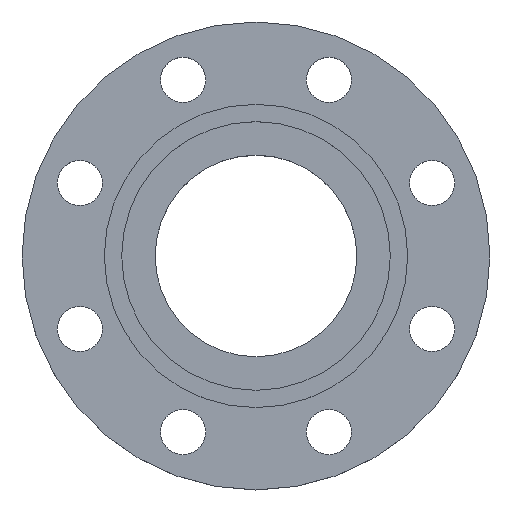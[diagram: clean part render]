
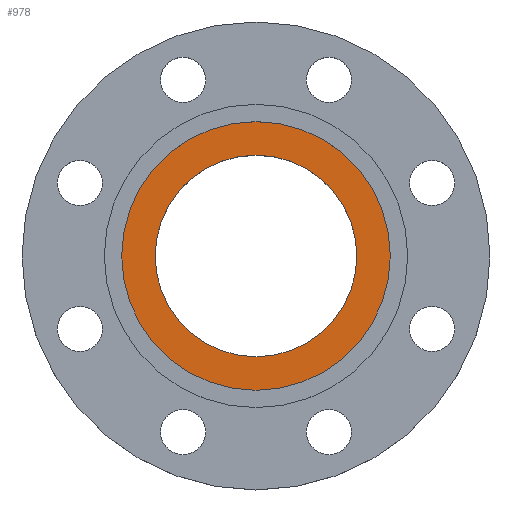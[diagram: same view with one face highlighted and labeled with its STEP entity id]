
A CAD part, top view. The second image highlights one B-rep face of the part: STEP entity #978.
In plain terms, the highlighted planar face has unit normal (0, 0, 1).
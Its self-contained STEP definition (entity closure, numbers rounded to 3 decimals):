
#41 = DIRECTION ( 'NONE',  ( 0., 0., -1. ) ) ;
#56 = AXIS2_PLACEMENT_3D ( 'NONE', #597, #41, #163 ) ;
#109 = CIRCLE ( 'NONE', #111, 77.5 ) ;
#111 = AXIS2_PLACEMENT_3D ( 'NONE', #384, #383, #381 ) ;
#129 = CIRCLE ( 'NONE', #540, 58.17 ) ;
#142 = DIRECTION ( 'NONE',  ( 1., 0., 0. ) ) ;
#143 = DIRECTION ( 'NONE',  ( 0., 0., 1. ) ) ;
#145 = CARTESIAN_POINT ( 'NONE',  ( 77.5, 0., -5. ) ) ;
#146 = PLANE ( 'NONE',  #209 ) ;
#147 = FACE_OUTER_BOUND ( 'NONE', #886, .T. ) ;
#148 = FACE_BOUND ( 'NONE', #893, .T. ) ;
#151 = EDGE_CURVE ( 'NONE', #569, #873, #129, .T. ) ;
#163 = DIRECTION ( 'NONE',  ( -1., 0., 0. ) ) ;
#177 = CARTESIAN_POINT ( 'NONE',  ( 77.5, 0., -5. ) ) ;
#209 = AXIS2_PLACEMENT_3D ( 'NONE', #145, #143, #142 ) ;
#216 = CARTESIAN_POINT ( 'NONE',  ( 58.17, 0., -5. ) ) ;
#226 = CARTESIAN_POINT ( 'NONE',  ( -77.5, 0., -5. ) ) ;
#249 = EDGE_CURVE ( 'NONE', #913, #865, #490, .T. ) ;
#327 = EDGE_CURVE ( 'NONE', #873, #569, #457, .T. ) ;
#381 = DIRECTION ( 'NONE',  ( -1., 0., 0. ) ) ;
#383 = DIRECTION ( 'NONE',  ( 0., 0., -1. ) ) ;
#384 = CARTESIAN_POINT ( 'NONE',  ( 0., 0., -5. ) ) ;
#457 = CIRCLE ( 'NONE', #473, 58.17 ) ;
#473 = AXIS2_PLACEMENT_3D ( 'NONE', #551, #692, #564 ) ;
#490 = CIRCLE ( 'NONE', #56, 77.5 ) ;
#540 = AXIS2_PLACEMENT_3D ( 'NONE', #791, #796, #793 ) ;
#551 = CARTESIAN_POINT ( 'NONE',  ( 0., 0., -5. ) ) ;
#564 = DIRECTION ( 'NONE',  ( 1., 0., 0. ) ) ;
#569 = VERTEX_POINT ( 'NONE', #690 ) ;
#597 = CARTESIAN_POINT ( 'NONE',  ( 0., 0., -5. ) ) ;
#690 = CARTESIAN_POINT ( 'NONE',  ( -58.17, 0., -5. ) ) ;
#692 = DIRECTION ( 'NONE',  ( 0., 0., 1. ) ) ;
#743 = EDGE_CURVE ( 'NONE', #865, #913, #109, .T. ) ;
#791 = CARTESIAN_POINT ( 'NONE',  ( 0., 0., -5. ) ) ;
#793 = DIRECTION ( 'NONE',  ( 1., 0., 0. ) ) ;
#796 = DIRECTION ( 'NONE',  ( 0., 0., 1. ) ) ;
#865 = VERTEX_POINT ( 'NONE', #226 ) ;
#873 = VERTEX_POINT ( 'NONE', #216 ) ;
#886 = EDGE_LOOP ( 'NONE', ( #1085, #1086 ) ) ;
#893 = EDGE_LOOP ( 'NONE', ( #1083, #1084 ) ) ;
#913 = VERTEX_POINT ( 'NONE', #177 ) ;
#978 = ADVANCED_FACE ( 'NONE', ( #148, #147 ), #146, .T. ) ;
#1083 = ORIENTED_EDGE ( 'NONE', *, *, #327, .F. ) ;
#1084 = ORIENTED_EDGE ( 'NONE', *, *, #151, .F. ) ;
#1085 = ORIENTED_EDGE ( 'NONE', *, *, #743, .F. ) ;
#1086 = ORIENTED_EDGE ( 'NONE', *, *, #249, .F. ) ;
